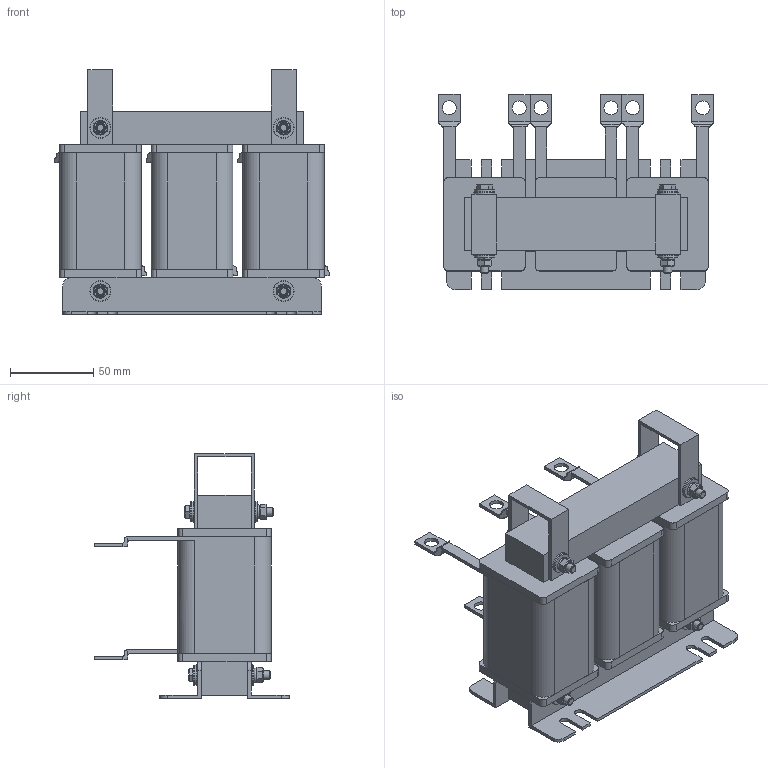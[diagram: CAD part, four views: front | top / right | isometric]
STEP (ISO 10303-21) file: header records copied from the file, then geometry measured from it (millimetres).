
FILE_DESCRIPTION(('STEP AP203'), '1');
FILE_NAME('栖闉罻 _ ISF-11_26-4', '', ('UNSPECIFIED'), ('UNSPECIFIED'), 'ASCON STEP Converter 1.6', 'ASCON Math Kernel', '');
FILE_SCHEMA(('CONFIG_CONTROL_DESIGN'));
Length unit declared in the file: millimetre
Products named in the file (13): ISF-11_26-4
Assembly tree (47 placements, depth 2):
  ISF-11_26-4
    ISF-11_26-4
    ISF-11_26-4  x2
    ISF-11_26-4  x6
    ISF-11_26-4  x3
    ISF-11_26-4
    ISF-11_26-4  x2
    ISF-11_26-4  x8
    ISF-11_26-4  x12
    ISF-11_26-4  x2
    ISF-11_26-4  x2
    ISF-11_26-4  x4
    ISF-11_26-4  x4
Bounding box: 165 x 117 x 147 mm (x, y, z)
Volume: 844896.3 mm3; surface area: 180395.6 mm2
Topology: 47 solids, 47 shells, 574 faces, 1308 edges, 832 vertices
Faces by surface type: plane 412, cylinder 142, cone 12, torus 8
Full cylindrical faces by diameter (mm): 5 x40, 8.4 x6, 12 x12, 12.5 x8
Entity records: 7231 total; most frequent: CARTESIAN_POINT 1229, DIRECTION 986, ORIENTED_EDGE 872, EDGE_CURVE 436, LINE 336, VECTOR 336, AXIS2_PLACEMENT_3D 325, VERTEX_POINT 290
